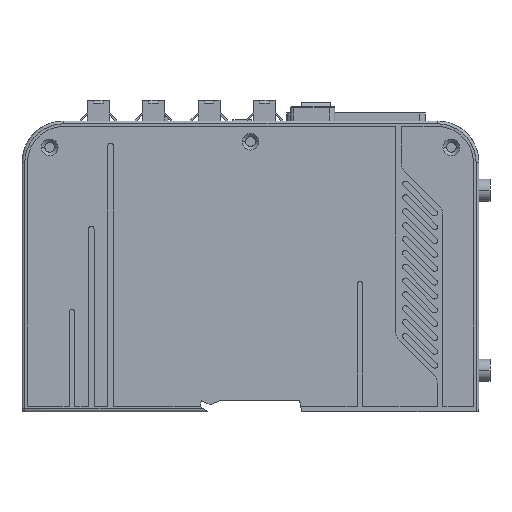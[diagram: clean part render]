
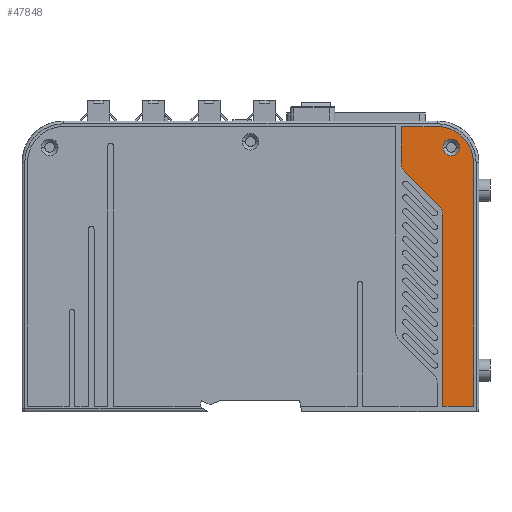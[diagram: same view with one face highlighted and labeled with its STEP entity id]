
A CAD part, left-side view. The second image highlights one B-rep face of the part: STEP entity #47848.
In plain terms, the highlighted planar face has unit normal (-1, 0, 0).
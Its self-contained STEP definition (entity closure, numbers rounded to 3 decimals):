
#13611=DIRECTION('',(0.,0.,1.));
#13612=VECTOR('',#13611,69.343);
#13613=CARTESIAN_POINT('',(-49.5,-69.5,2.));
#13614=LINE('',#13613,#13612);
#13615=DIRECTION('',(0.,0.707,0.707));
#13616=VECTOR('',#13615,17.899);
#13617=CARTESIAN_POINT('',(-49.5,-68.328,74.172));
#13618=LINE('',#13617,#13616);
#13619=CARTESIAN_POINT('',(-49.5,-58.5,89.657));
#13620=DIRECTION('',(-1.,0.,0.));
#13621=DIRECTION('',(0.,1.,0.));
#13622=AXIS2_PLACEMENT_3D('',#13619,#13620,#13621);
#13624=DIRECTION('',(0.,0.,1.));
#13625=VECTOR('',#13624,13.343);
#13626=CARTESIAN_POINT('',(-49.5,-54.5,89.657));
#13627=LINE('',#13626,#13625);
#13628=DIRECTION('',(0.,-1.,0.));
#13629=VECTOR('',#13628,13.);
#13630=CARTESIAN_POINT('',(-49.5,-54.5,103.));
#13631=LINE('',#13630,#13629);
#13632=CARTESIAN_POINT('',(-49.5,-67.5,90.));
#13633=DIRECTION('',(1.,0.,0.));
#13634=DIRECTION('',(0.,0.,1.));
#13635=AXIS2_PLACEMENT_3D('',#13632,#13633,#13634);
#13637=DIRECTION('',(0.,0.,-1.));
#13638=VECTOR('',#13637,88.);
#13639=CARTESIAN_POINT('',(-49.5,-80.5,90.));
#13640=LINE('',#13639,#13638);
#13641=DIRECTION('',(0.,1.,0.));
#13642=VECTOR('',#13641,11.);
#13643=CARTESIAN_POINT('',(-49.5,-80.5,2.));
#13644=LINE('',#13643,#13642);
#13655=CARTESIAN_POINT('',(-49.5,-72.5,95.5));
#13656=DIRECTION('',(-1.,0.,0.));
#13657=DIRECTION('',(0.,1.,0.));
#13658=AXIS2_PLACEMENT_3D('',#13655,#13656,#13657);
#13660=CARTESIAN_POINT('',(-49.5,-72.5,95.5));
#13661=DIRECTION('',(-1.,0.,0.));
#13662=DIRECTION('',(0.,-1.,0.));
#13663=AXIS2_PLACEMENT_3D('',#13660,#13661,#13662);
#18654=CARTESIAN_POINT('',(-49.5,-65.5,71.343));
#18655=DIRECTION('',(1.,0.,0.));
#18656=DIRECTION('',(0.,-0.707,0.707));
#18657=AXIS2_PLACEMENT_3D('',#18654,#18655,#18656);
#23048=CARTESIAN_POINT('',(-49.5,-67.5,103.));
#23049=CARTESIAN_POINT('',(-49.5,-80.5,90.));
#23050=VERTEX_POINT('',#23048);
#23051=VERTEX_POINT('',#23049);
#23052=CARTESIAN_POINT('',(-49.5,-80.5,2.));
#23053=VERTEX_POINT('',#23052);
#23054=CARTESIAN_POINT('',(-49.5,-69.5,2.));
#23055=VERTEX_POINT('',#23054);
#23056=CARTESIAN_POINT('',(-49.5,-54.5,103.));
#23057=VERTEX_POINT('',#23056);
#23904=CARTESIAN_POINT('',(-49.5,-54.5,89.657));
#23906=VERTEX_POINT('',#23904);
#23908=CARTESIAN_POINT('',(-49.5,-55.672,86.828));
#23909=VERTEX_POINT('',#23908);
#23937=CARTESIAN_POINT('',(-49.5,-69.5,71.343));
#23939=VERTEX_POINT('',#23937);
#23942=CARTESIAN_POINT('',(-49.5,-68.328,74.172));
#23943=VERTEX_POINT('',#23942);
#24004=CARTESIAN_POINT('',(-49.5,-69.5,95.5));
#24005=CARTESIAN_POINT('',(-49.5,-75.5,95.5));
#24006=VERTEX_POINT('',#24004);
#24007=VERTEX_POINT('',#24005);
#47817=CARTESIAN_POINT('',(-49.5,0.,0.));
#47818=DIRECTION('',(1.,0.,0.));
#47819=DIRECTION('',(0.,0.,-1.));
#47820=AXIS2_PLACEMENT_3D('',#47817,#47818,#47819);
#47821=PLANE('',#47820);
#47823=ORIENTED_EDGE('',*,*,#47822,.T.);
#47825=ORIENTED_EDGE('',*,*,#47824,.F.);
#47827=ORIENTED_EDGE('',*,*,#47826,.T.);
#47829=ORIENTED_EDGE('',*,*,#47828,.F.);
#47831=ORIENTED_EDGE('',*,*,#47830,.T.);
#47833=ORIENTED_EDGE('',*,*,#47832,.T.);
#47835=ORIENTED_EDGE('',*,*,#47834,.T.);
#47837=ORIENTED_EDGE('',*,*,#47836,.T.);
#47839=ORIENTED_EDGE('',*,*,#47838,.T.);
#47840=EDGE_LOOP('',(#47823,#47825,#47827,#47829,#47831,#47833,#47835,#47837,
#47839));
#47841=FACE_OUTER_BOUND('',#47840,.F.);
#47843=ORIENTED_EDGE('',*,*,#47842,.T.);
#47845=ORIENTED_EDGE('',*,*,#47844,.T.);
#47846=EDGE_LOOP('',(#47843,#47845));
#47847=FACE_BOUND('',#47846,.F.);
#13623=CIRCLE('',#13622,4.);
#13636=CIRCLE('',#13635,13.);
#13659=CIRCLE('',#13658,3.);
#13664=CIRCLE('',#13663,3.);
#18658=CIRCLE('',#18657,4.);
#47822=EDGE_CURVE('',#23055,#23939,#13614,.T.);
#47824=EDGE_CURVE('',#23943,#23939,#18658,.T.);
#47826=EDGE_CURVE('',#23943,#23909,#13618,.T.);
#47828=EDGE_CURVE('',#23906,#23909,#13623,.T.);
#47830=EDGE_CURVE('',#23906,#23057,#13627,.T.);
#47832=EDGE_CURVE('',#23057,#23050,#13631,.T.);
#47834=EDGE_CURVE('',#23050,#23051,#13636,.T.);
#47836=EDGE_CURVE('',#23051,#23053,#13640,.T.);
#47838=EDGE_CURVE('',#23053,#23055,#13644,.T.);
#47842=EDGE_CURVE('',#24006,#24007,#13659,.T.);
#47844=EDGE_CURVE('',#24007,#24006,#13664,.T.);
#47848=ADVANCED_FACE('',(#47841,#47847),#47821,.F.);
